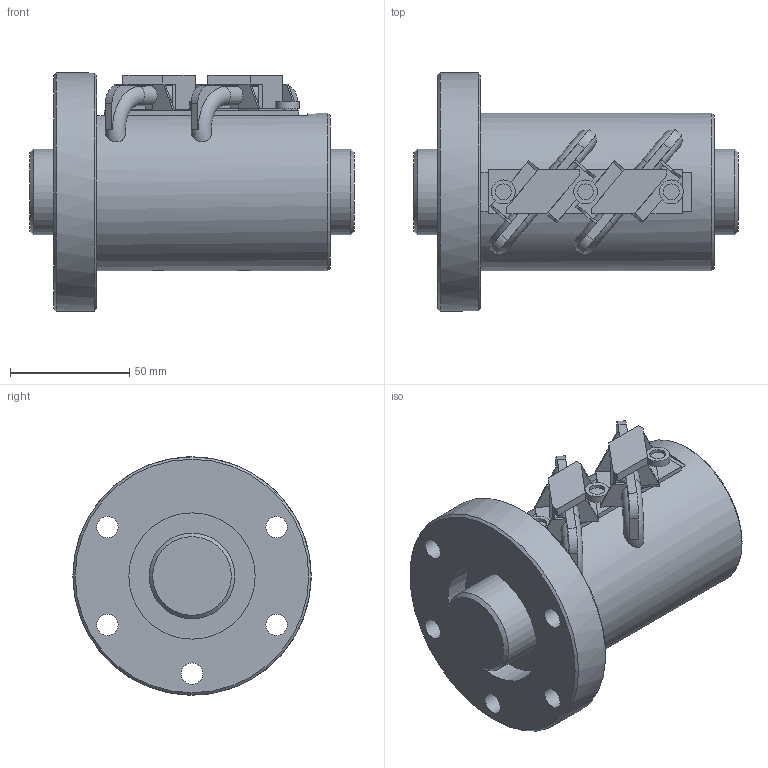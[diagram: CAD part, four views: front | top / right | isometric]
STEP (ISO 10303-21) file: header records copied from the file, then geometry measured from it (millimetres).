
FILE_DESCRIPTION(/* description */ ('STEP AP203'),/* implementation_level */ '2;1');
FILE_NAME(/* name */ 'HBN3612-5RRG2+136LC0(0G200)_rev',/* time_stamp */ '2024-07-04T08:17:24+02:00',/* author */ ('License CC BY-ND 4.0'),/* organization */ ('CADENAS'),/* preprocessor_version */ 'ST-DEVELOPER v19.3',/* originating_system */ 'PARTsolutions',/* authorisation */ ' ');
FILE_SCHEMA (('CONFIG_CONTROL_DESIGN'));
Length unit declared in the file: millimetre
Products named in the file (3): HBN3612-5RRG2+136LC0(0G200)_rev; HBN3612-5 RRG1+136L C0(01000) Shaft; HBN3612-5 RRG1+126L C0(0100) Nut
Assembly tree (2 placements, depth 2):
  HBN3612-5RRG2+136LC0(0G200)_rev
    HBN3612-5 RRG1+136L C0(01000) Shaft
    HBN3612-5 RRG1+126L C0(0100) Nut
Bounding box: 136 x 100 x 100 mm (x, y, z)
Volume: 482487.8 mm3; surface area: 83392.7 mm2
Topology: 2 solids, 2 shells, 181 faces, 513 edges, 326 vertices
Faces by surface type: plane 139, cylinder 29, cone 9, torus 4
Full cylindrical faces by diameter (mm): 4.917 x2, 6.667 x3, 9 x5, 10 x3, 36 x2, 53 x2, 66 x1, 100 x1
Entity records: 5777 total; most frequent: CARTESIAN_POINT 1111, ORIENTED_EDGE 936, DIRECTION 911, EDGE_CURVE 468, LINE 355, VECTOR 355, VERTEX_POINT 315, AXIS2_PLACEMENT_3D 278
